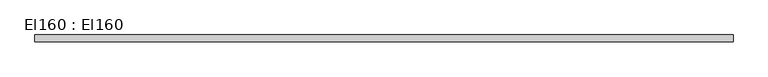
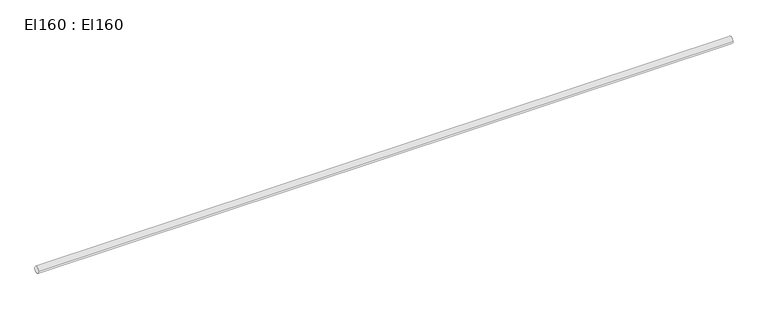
"""IFC4 building model written with IfcOpenShell, lengths in millimetres: cable carrier segment geometry, El160 : El160."""

from ifc_helpers import new_model, si_unit, point, frame, frame_2d, origin, place, context, project, spatial, circle_curve, trimmed, segment, composite_curve, outline, extrude, source, transform, mapped, element, save


def el160_el160_61374a46(model_context):
    return source(origin(), model_context, "Body", "SweptSolid", [
        extrude(outline(composite_curve([segment(trimmed(circle_curve(frame_2d((12372.1, 2950.0)), 9.5), [point((12362.6, 2950.0))], [point((12381.6, 2950.0))], False, "CARTESIAN"), True, "CONTINUOUS"), segment(trimmed(circle_curve(frame_2d((12372.1, 2950.0)), 9.5), [point((12381.6, 2950.0))], [point((12362.6, 2950.0))], False, "CARTESIAN"), True, "CONTINUOUS")], self_intersect=False)), frame((13976.1, 0.0, 0.0), z_axis=(1.0, 0.0, 0.0), x_axis=(0.0, 1.0, 0.0)), (0.0, 0.0, 1.0), 1970.0),
    ])


if __name__ == "__main__":
    model = new_model("IFC4")
    model_context = context("Model", 3, world=origin())
    ifc_project = project(units=[si_unit("LENGTHUNIT", "METRE", prefix="MILLI")], contexts=[model_context])
    site = spatial("IfcSite", under=ifc_project)
    building = spatial("IfcBuilding", under=site)
    placement = place(None, origin())
    el160_el160_shape = el160_el160_61374a46(model_context)
    element("IfcCableCarrierSegment", 1, ObjectType="El160 : El160", at=placement, inside=building, context=model_context, shape_type="MappedRepresentation", body=[
        mapped(el160_el160_shape, transform((0.0, 0.0, 0.0), x_axis=(1.0, 0.0, 0.0), y_axis=(0.0, 1.0, 0.0), z_axis=(0.0, 0.0, 1.0))),
    ])
    save(model, "model.ifc")
